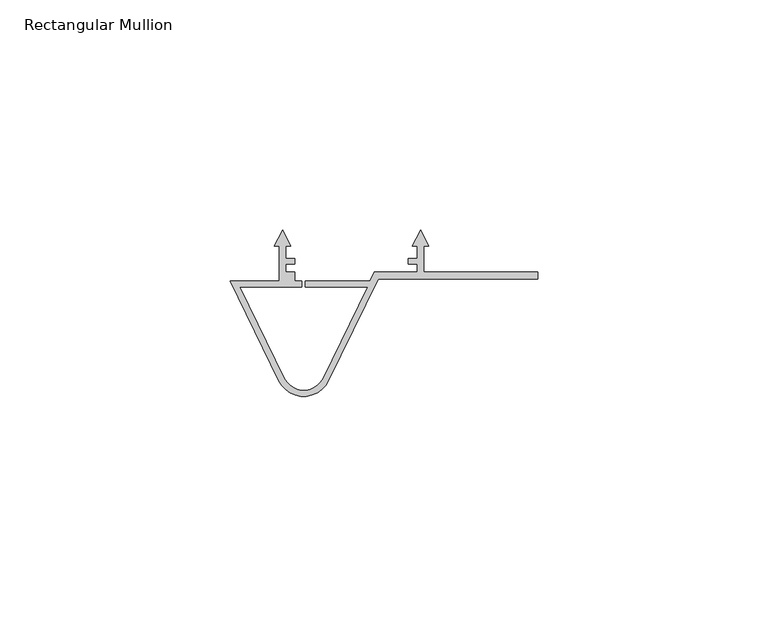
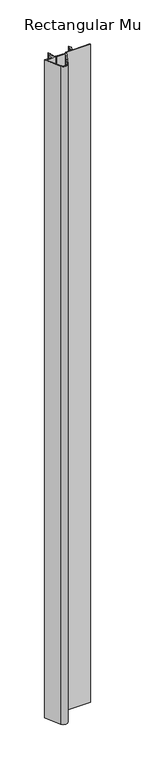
"""IFC4 building model written with IfcOpenShell, lengths in millimetres: member geometry, Rectangular Mullion : Renson_Linarte_LA-CO-01."""

from ifc_helpers import new_model, si_unit, point, frame, frame_2d, origin, place, context, project, spatial, polyline, circle_curve, trimmed, segment, composite_curve, outline, extrude, source, transform, mapped, element, save


def rectangular_mullion_e46097ff(model_context):
    return source(origin(), model_context, "Body", "SweptSolid", [
        extrude(outline(composite_curve([segment(polyline([(41.4001673, -25.0), (43.2159039, -28.5635875), (42.1001682, -28.4659733), (42.1001682, -34.2), (66.9001673, -34.2), (66.9001673, -35.6999997), (32.1777013, -35.6999997), (21.3840685, -57.8302268)]), True, "CONTINUOUS"), segment(trimmed(circle_curve(frame_2d((15.9913042, -55.2)), 6.0), [point((21.3840685, -57.8302268))], [point((10.5985399, -57.8302269))], False, "CARTESIAN"), True, "CONTINUOUS"), segment(polyline([(10.5985399, -57.8302269), (0.0, -36.0999998), (10.7001672, -36.0999998), (10.7001672, -28.4659732), (9.5844307, -28.5635874), (11.4001673, -25.0), (13.2159038, -28.5635874), (12.1001674, -28.4659732), (12.1001674, -31.1999999), (14.0924315, -31.1999999), (14.0924315, -32.3999999), (12.1001674, -32.3999999), (12.1001674, -34.1999999), (14.0924315, -34.1999999), (14.0924315, -36.0999998), (15.6084615, -36.0999998), (15.6084615, -37.3999998), (2.0804349, -37.3999998), (11.7669722, -57.2603444)]), True, "CONTINUOUS"), segment(trimmed(circle_curve(frame_2d((15.9913042, -55.2)), 4.7), [point((11.7669722, -57.2603444))], [point((20.2156362, -57.2603444))], True, "CARTESIAN"), True, "CONTINUOUS"), segment(polyline([(20.2156362, -57.2603444), (29.9021735, -37.3999998), (16.3741469, -37.3999998), (16.3741469, -36.0999998), (30.3239483, -36.0999998), (31.2920456, -34.2), (40.700168, -34.2), (40.700168, -32.4), (38.7079043, -32.4), (38.7079043, -31.2), (40.7001684, -31.2), (40.7001684, -28.465973), (39.5844306, -28.5635874), (41.4001673, -25.0)]), True, "CONTINUOUS")], self_intersect=False)), frame((0.0, 0.0, -1000.0), z_axis=(0.0, 0.0, 1.0), x_axis=(1.0, 0.0, 0.0)), (0.0, 0.0, 1.0), 1000.0),
    ])


if __name__ == "__main__":
    model = new_model("IFC4")
    model_context = context("Model", 3, world=origin())
    ifc_project = project(units=[si_unit("LENGTHUNIT", "METRE", prefix="MILLI")], contexts=[model_context])
    site = spatial("IfcSite", under=ifc_project)
    building = spatial("IfcBuilding", under=site)
    placement = place(None, origin())
    rectangular_mullion_shape = rectangular_mullion_e46097ff(model_context)
    element("IfcMember", 1, ObjectType="Rectangular Mullion : Renson_Linarte_LA-CO-01", at=placement, inside=building, context=model_context, shape_type="MappedRepresentation", body=[
        mapped(rectangular_mullion_shape, transform((0.0, 0.0, 0.0), x_axis=(1.0, 0.0, 0.0), y_axis=(0.0, 1.0, 0.0), z_axis=(0.0, 0.0, 1.0))),
    ])
    save(model, "model.ifc")
